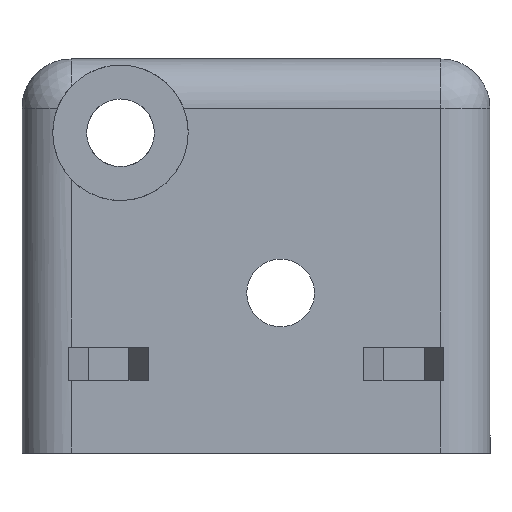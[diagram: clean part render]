
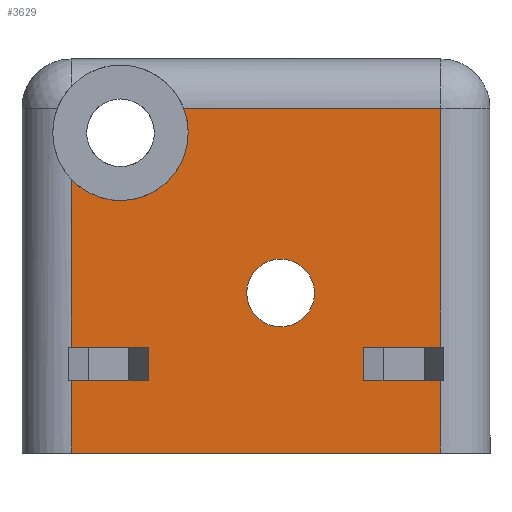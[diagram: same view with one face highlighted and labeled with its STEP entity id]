
A CAD part, front view. The second image highlights one B-rep face of the part: STEP entity #3629.
In plain terms, the highlighted planar face has unit normal (0, -1, 0).
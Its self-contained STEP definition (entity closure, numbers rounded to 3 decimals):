
#191=FACE_BOUND('',#709,.T.);
#301=PLANE('',#3880);
#485=FACE_OUTER_BOUND('',#708,.T.);
#708=EDGE_LOOP('',(#3358,#3359,#3360,#3361,#3362,#3363,#3364,#3365,#3366,
#3367,#3368,#3369,#3370));
#709=EDGE_LOOP('',(#3371));
#746=LINE('',#4801,#1089);
#752=LINE('',#4814,#1095);
#759=LINE('',#4832,#1102);
#761=LINE('',#4839,#1104);
#767=LINE('',#4851,#1110);
#768=LINE('',#4857,#1111);
#1042=LINE('',#6509,#1385);
#1043=LINE('',#6511,#1386);
#1047=LINE('',#6523,#1390);
#1057=LINE('',#6559,#1400);
#1058=LINE('',#6562,#1401);
#1059=LINE('',#6563,#1402);
#1089=VECTOR('',#3967,10.);
#1095=VECTOR('',#3975,10.);
#1102=VECTOR('',#3988,10.);
#1104=VECTOR('',#3994,10.);
#1110=VECTOR('',#4002,10.);
#1111=VECTOR('',#4007,10.);
#1385=VECTOR('',#4629,10.);
#1386=VECTOR('',#4632,10.);
#1390=VECTOR('',#4646,10.);
#1400=VECTOR('',#4680,10.);
#1401=VECTOR('',#4683,10.);
#1402=VECTOR('',#4684,10.);
#1479=CIRCLE('',#3865,2.75);
#1486=CIRCLE('',#3881,5.5);
#1523=VERTEX_POINT('',#4797);
#1525=VERTEX_POINT('',#4800);
#1530=VERTEX_POINT('',#4812);
#1531=VERTEX_POINT('',#4813);
#1538=VERTEX_POINT('',#4829);
#1539=VERTEX_POINT('',#4831);
#1542=VERTEX_POINT('',#4837);
#1547=VERTEX_POINT('',#4849);
#1549=VERTEX_POINT('',#4855);
#1550=VERTEX_POINT('',#4856);
#1822=VERTEX_POINT('',#6513);
#1823=VERTEX_POINT('',#6519);
#1831=VERTEX_POINT('',#6558);
#1832=VERTEX_POINT('',#6560);
#1873=EDGE_CURVE('',#1525,#1523,#746,.T.);
#1879=EDGE_CURVE('',#1530,#1531,#752,.T.);
#1888=EDGE_CURVE('',#1539,#1538,#759,.T.);
#1892=EDGE_CURVE('',#1523,#1542,#761,.T.);
#1898=EDGE_CURVE('',#1538,#1547,#767,.T.);
#1900=EDGE_CURVE('',#1549,#1550,#768,.T.);
#2326=EDGE_CURVE('',#1547,#1525,#1042,.T.);
#2327=EDGE_CURVE('',#1531,#1549,#1043,.T.);
#2329=EDGE_CURVE('',#1822,#1822,#1479,.T.);
#2333=EDGE_CURVE('',#1823,#1539,#1047,.T.);
#2349=EDGE_CURVE('',#1542,#1831,#1057,.T.);
#2350=EDGE_CURVE('',#1831,#1832,#1486,.F.);
#2351=EDGE_CURVE('',#1832,#1530,#1058,.T.);
#2352=EDGE_CURVE('',#1550,#1823,#1059,.T.);
#3358=ORIENTED_EDGE('',*,*,#1873,.T.);
#3359=ORIENTED_EDGE('',*,*,#1892,.T.);
#3360=ORIENTED_EDGE('',*,*,#2349,.T.);
#3361=ORIENTED_EDGE('',*,*,#2350,.T.);
#3362=ORIENTED_EDGE('',*,*,#2351,.T.);
#3363=ORIENTED_EDGE('',*,*,#1879,.T.);
#3364=ORIENTED_EDGE('',*,*,#2327,.T.);
#3365=ORIENTED_EDGE('',*,*,#1900,.T.);
#3366=ORIENTED_EDGE('',*,*,#2352,.T.);
#3367=ORIENTED_EDGE('',*,*,#2333,.T.);
#3368=ORIENTED_EDGE('',*,*,#1888,.T.);
#3369=ORIENTED_EDGE('',*,*,#1898,.T.);
#3370=ORIENTED_EDGE('',*,*,#2326,.T.);
#3371=ORIENTED_EDGE('',*,*,#2329,.T.);
#3629=ADVANCED_FACE('',(#485,#191),#301,.T.);
#3865=AXIS2_PLACEMENT_3D('',#6515,#4636,#4637);
#3880=AXIS2_PLACEMENT_3D('',#6557,#4678,#4679);
#3881=AXIS2_PLACEMENT_3D('',#6561,#4681,#4682);
#3967=DIRECTION('',(0.,0.,1.));
#3975=DIRECTION('',(0.,0.,1.));
#3988=DIRECTION('',(-1.,0.,0.));
#3994=DIRECTION('',(-1.,0.,0.));
#4002=DIRECTION('',(0.,0.,-1.));
#4007=DIRECTION('',(0.,0.,-1.));
#4629=DIRECTION('',(-1.,0.,0.));
#4632=DIRECTION('',(1.,0.,0.));
#4636=DIRECTION('center_axis',(0.,1.,0.));
#4637=DIRECTION('ref_axis',(1.,0.,0.));
#4646=DIRECTION('',(0.,0.,1.));
#4678=DIRECTION('center_axis',(0.,-1.,0.));
#4679=DIRECTION('ref_axis',(1.,0.,0.));
#4680=DIRECTION('',(0.,0.,-1.));
#4681=DIRECTION('center_axis',(0.,-1.,0.));
#4682=DIRECTION('ref_axis',(1.,0.,0.));
#4683=DIRECTION('',(1.,0.,0.));
#4684=DIRECTION('',(1.,0.,0.));
#4797=CARTESIAN_POINT('',(3.4,306.,-151.));
#4800=CARTESIAN_POINT('',(3.4,306.,-157.25));
#4801=CARTESIAN_POINT('',(3.4,306.,-169.25));
#4812=CARTESIAN_POINT('',(3.4,306.,-181.));
#4813=CARTESIAN_POINT('',(3.4,306.,-174.75));
#4814=CARTESIAN_POINT('',(3.4,306.,-169.25));
#4829=CARTESIAN_POINT('',(6.1,306.,-151.));
#4831=CARTESIAN_POINT('',(12.,306.,-151.));
#4832=CARTESIAN_POINT('',(-70.465,306.,-151.));
#4837=CARTESIAN_POINT('',(-16.,306.,-151.));
#4839=CARTESIAN_POINT('',(-70.465,306.,-151.));
#4849=CARTESIAN_POINT('',(6.1,306.,-157.25));
#4851=CARTESIAN_POINT('',(6.1,306.,-169.25));
#4855=CARTESIAN_POINT('',(6.1,306.,-174.75));
#4856=CARTESIAN_POINT('',(6.1,306.,-181.));
#4857=CARTESIAN_POINT('',(6.1,306.,-169.25));
#6509=CARTESIAN_POINT('',(-74.715,306.,-157.25));
#6511=CARTESIAN_POINT('',(-73.465,306.,-174.75));
#6513=CARTESIAN_POINT('',(-3.75,306.,-164.));
#6515=CARTESIAN_POINT('Origin',(-1.,306.,-164.));
#6519=CARTESIAN_POINT('',(12.,306.,-181.));
#6523=CARTESIAN_POINT('',(12.,306.,-172.5));
#6557=CARTESIAN_POINT('Origin',(-152.93,306.,-160.));
#6558=CARTESIAN_POINT('',(-16.,306.,-171.877));
#6559=CARTESIAN_POINT('',(-16.,306.,-153.5));
#6560=CARTESIAN_POINT('',(-10.225,306.,-181.));
#6561=CARTESIAN_POINT('Origin',(-14.,306.,-177.));
#6562=CARTESIAN_POINT('',(-86.465,306.,-181.));
#6563=CARTESIAN_POINT('',(-86.465,306.,-181.));
